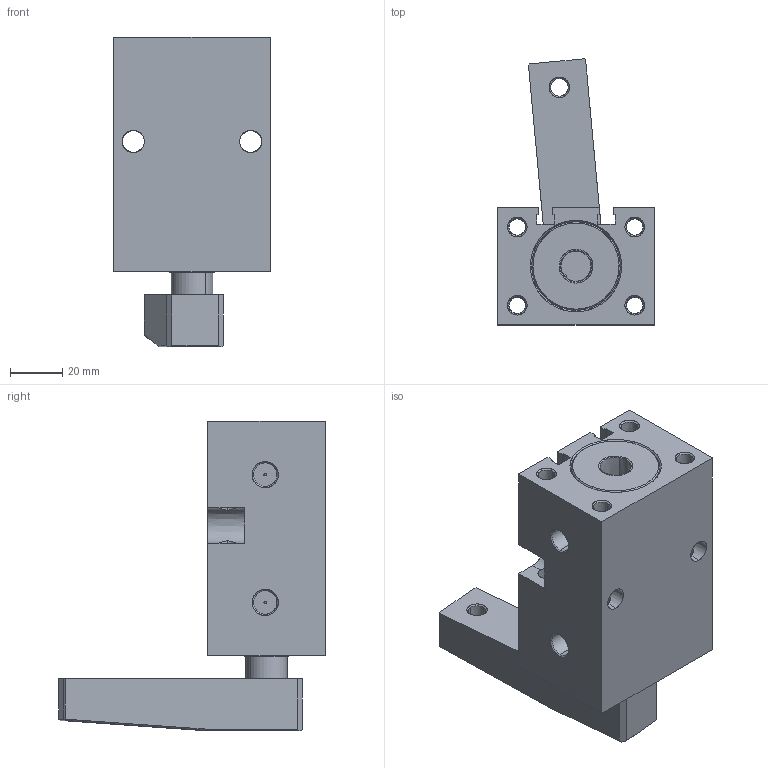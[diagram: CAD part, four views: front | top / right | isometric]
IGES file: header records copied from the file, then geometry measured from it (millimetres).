
Start section: SolidWorks IGES file using analytic representation for surfaces
Global section: file name: C:\Users\cagdas\Desktop\BGDK_32.IGS; native system: SolidWorks 2018; preprocessor: SolidWorks 2018; author: cagdas; date: 181210.112458; units: millimetre
Bounding box: 60 x 102.13 x 118.7 mm (x, y, z)
Surface area: 79516.4 mm2 (no closed solid volume)
Topology: 0 solids, 0 shells, 652 faces, 9953 edges, 9941 vertices
Faces by surface type: revolution 433, bspline 219
